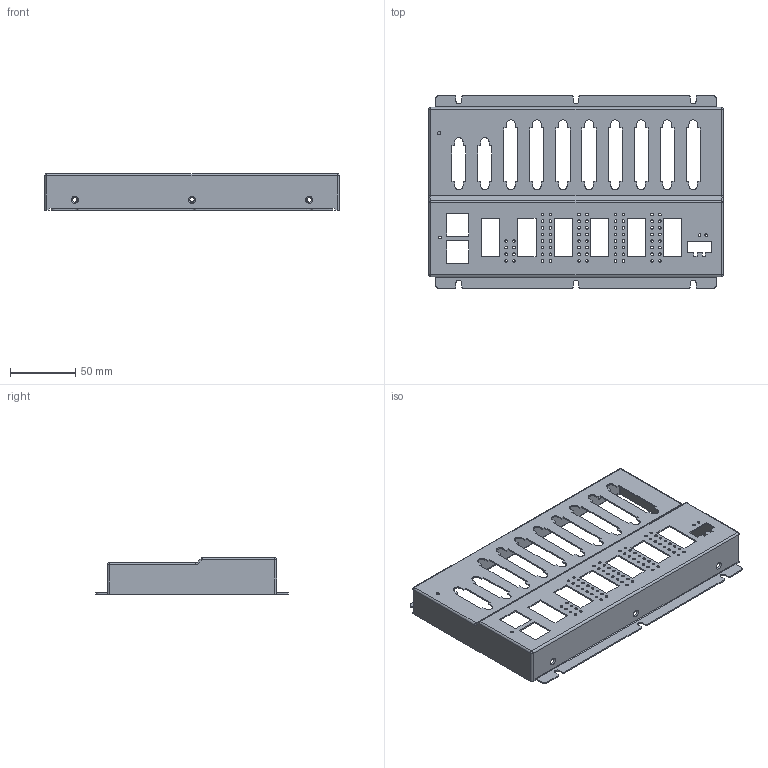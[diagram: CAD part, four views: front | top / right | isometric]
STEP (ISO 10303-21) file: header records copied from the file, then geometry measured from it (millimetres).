
FILE_DESCRIPTION((''),'2;1');
FILE_NAME('GCN800A-X1_-V01','2024-04-30T',('Administrator'),(''),'PRO/ENGINEER BY PARAMETRIC TECHNOLOGY CORPORATION, 2010280','PRO/ENGINEER BY PARAMETRIC TECHNOLOGY CORPORATION, 2010280','');
FILE_SCHEMA(('CONFIG_CONTROL_DESIGN'));
Length unit declared in the file: millimetre
Products named in the file (1): GCN800A-X1_-V01
Bounding box: 226 x 148 x 28 mm (x, y, z)
Volume: 42286.6 mm3; surface area: 87816.1 mm2
Topology: 1 solids, 1 shells, 454 faces, 1340 edges, 878 vertices
Faces by surface type: cylinder 228, plane 198, sphere 12, cone 12, torus 4
Entity records: 15646 total; most frequent: DIRECTION 2748, CARTESIAN_POINT 2660, ORIENTED_EDGE 2656, EDGE_CURVE 1328, AXIS2_PLACEMENT_3D 966, VERTEX_POINT 878, VECTOR 816, LINE 816
